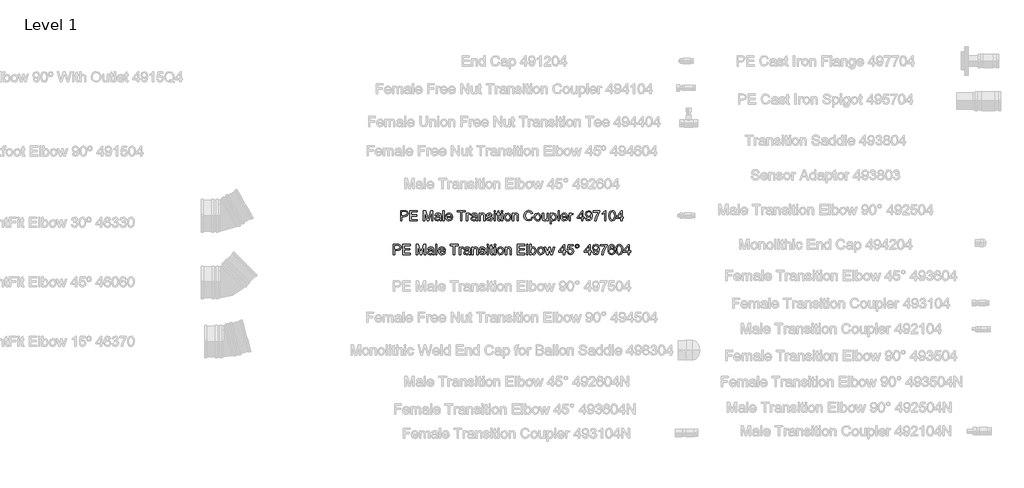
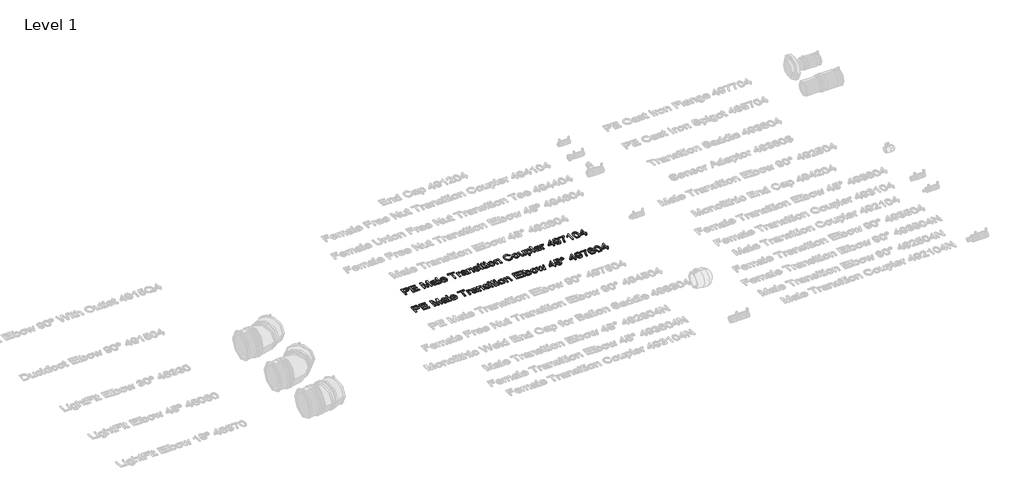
# One storey, part 29 of 38: 2 proxies.
"""IFC4 building model written with IfcOpenShell, lengths in millimetres."""

from ifc_helpers import new_model, si_unit, origin, origin_with_axes, place, context, project, spatial, polyline, outline, extrude, element, save

model = new_model("IFC4")

# Units and contexts
model_context = context("Model", 3, world=origin())
ifc_project = project(units=[si_unit("LENGTHUNIT", "METRE", prefix="MILLI")], contexts=[model_context])

# Site, building, storey
site = spatial("IfcSite", under=ifc_project)
building = spatial("IfcBuilding", under=site)
storey = spatial("IfcBuildingStorey", under=building, Name="Level 1", Elevation=0.0)

# Proxies
placement = place(None, origin())
element("IfcBuildingElementProxy", 1, Name="100 mm Arial", ObjectType="100 mm Arial", at=placement, inside=storey, context=model_context, shape_type="SweptSolid", body=[
    extrude(outline(polyline([(15672.5057062, 4189.446795), (15672.5057062, 4248.523718), (15694.399937, 4248.523718), (15703.2268601, 4247.961218), (15710.4023408, 4245.1991988), (15715.0537831, 4239.4876603), (15716.8133985, 4231.4323719), (15712.0609947, 4218.6679488), (15705.3957302, 4214.7520834), (15694.9047447, 4213.446795), (15679.8903216, 4213.446795), (15679.8903216, 4189.446795), (15672.5057062, 4189.446795)]), holes=[polyline([(15679.8903216, 4220.8314103), (15695.337437, 4220.8314103), (15706.212437, 4223.5429488), (15709.4287831, 4231.1727565), (15707.5321485, 4237.2881411), (15702.5489754, 4240.634295), (15695.1643601, 4241.1391027), (15679.8903216, 4241.1391027), (15679.8903216, 4220.8314103)])]), origin_with_axes(), (0.0, 0.0, 1.0), 5.0),
    extrude(outline(polyline([(15726.9672447, 4189.446795), (15726.9672447, 4248.523718), (15769.4287831, 4248.523718), (15769.4287831, 4241.1391027), (15734.3518601, 4241.1391027), (15734.3518601, 4223.6006411), (15767.5826293, 4223.6006411), (15767.5826293, 4216.2160257), (15734.3518601, 4216.2160257), (15734.3518601, 4196.8314103), (15770.3518601, 4196.8314103), (15770.3518601, 4189.446795), (15726.9672447, 4189.446795)])), origin_with_axes(), (0.0, 0.0, 1.0), 5.0),
    extrude(outline(polyline([(15804.5057062, 4189.446795), (15804.5057062, 4248.523718), (15817.212437, 4248.523718), (15829.2989754, 4206.884295), (15831.7364754, 4198.1871796), (15834.3758985, 4207.6054488), (15846.2605139, 4248.523718), (15858.9672447, 4248.523718), (15858.9672447, 4189.446795), (15851.5826293, 4189.446795), (15851.5826293, 4241.1391027), (15836.7412831, 4189.446795), (15826.7316677, 4189.446795), (15811.8903216, 4241.1391027), (15811.8903216, 4189.446795), (15804.5057062, 4189.446795)])), origin_with_axes(), (0.0, 0.0, 1.0), 5.0),
    extrude(outline(polyline([(15898.6595524, 4194.9852565), (15891.4984947, 4189.9804488), (15883.587437, 4188.523718), (15872.8638793, 4192.0285257), (15869.1210908, 4200.9852565), (15870.5345524, 4206.8266027), (15874.2484947, 4211.0669873), (15879.4191677, 4213.4900642), (15885.8085908, 4214.6006411), (15898.6162831, 4217.1391027), (15898.6595524, 4218.7833334), (15896.6258985, 4224.2352565), (15888.462437, 4226.3698719), (15880.9912831, 4224.9491988), (15877.4287831, 4219.9083334), (15870.0441677, 4220.8314103), (15873.2388793, 4228.0429488), (15879.6715716, 4232.2689103), (15889.4143601, 4233.7544873), (15898.3638793, 4232.4419873), (15903.4191677, 4229.1463142), (15905.6835908, 4224.134295), (15906.0441677, 4217.6727565), (15906.0441677, 4208.4852565), (15906.4191677, 4195.6559296), (15907.8903216, 4189.446795), (15900.5057062, 4189.446795), (15898.6595524, 4194.9852565)]), holes=[polyline([(15898.6595524, 4209.7544873), (15886.7460908, 4207.4900642), (15880.3927254, 4206.2929488), (15877.5153216, 4204.3458334), (15876.5057062, 4201.5044873), (15878.7052254, 4197.509295), (15885.1595524, 4195.9083334), (15892.6307062, 4197.6751603), (15897.4480139, 4201.9516027), (15898.6162831, 4207.6631411), (15898.6595524, 4209.7544873)])]), origin_with_axes(), (0.0, 0.0, 1.0), 5.0),
    extrude(outline(polyline([(15916.1980139, 4189.446795), (15916.1980139, 4248.523718), (15923.5826293, 4248.523718), (15923.5826293, 4189.446795), (15916.1980139, 4189.446795)])), origin_with_axes(), (0.0, 0.0, 1.0), 5.0),
    extrude(outline(polyline([(15965.0345524, 4202.3698719), (15972.274937, 4201.446795), (15965.5033024, 4191.9131411), (15952.8903216, 4188.523718), (15944.2256581, 4189.9858575), (15937.5585908, 4194.3722757), (15933.3073889, 4201.3981171), (15931.8903216, 4210.7785257), (15933.321812, 4220.4744392), (15937.6162831, 4227.7256411), (15944.1932062, 4232.2472757), (15952.4720524, 4233.7544873), (15960.493086, 4232.2508815), (15966.9023408, 4227.7400642), (15971.1048649, 4220.5032853), (15972.5057062, 4210.821795), (15972.462437, 4208.8314103), (15939.274937, 4208.8314103), (15943.5225331, 4199.2400642), (15953.0345524, 4195.9083334), (15960.274937, 4197.4516027), (15965.0345524, 4202.3698719)]), holes=[polyline([(15939.274937, 4216.2160257), (15965.1210908, 4216.2160257), (15962.1643601, 4222.9083334), (15952.4432062, 4226.3698719), (15943.3494562, 4223.6078527), (15939.274937, 4216.2160257)])]), origin_with_axes(), (0.0, 0.0, 1.0), 5.0),
    extrude(outline(polyline([(16018.6595524, 4189.446795), (16018.6595524, 4241.1391027), (15999.274937, 4241.1391027), (15999.274937, 4248.523718), (16045.4287831, 4248.523718), (16045.4287831, 4241.1391027), (16026.0441677, 4241.1391027), (16026.0441677, 4189.446795), (16018.6595524, 4189.446795)])), origin_with_axes(), (0.0, 0.0, 1.0), 5.0),
    extrude(outline(polyline([(16052.8133985, 4189.446795), (16052.8133985, 4232.8314103), (16059.274937, 4232.8314103), (16059.274937, 4226.4131411), (16063.8614754, 4232.3266027), (16068.4768601, 4233.7544873), (16075.8903216, 4231.4756411), (16073.4239754, 4224.8554488), (16068.2316677, 4226.3698719), (16064.056187, 4224.9131411), (16061.3951293, 4220.8746796), (16060.1980139, 4212.2496796), (16060.1980139, 4189.446795), (16052.8133985, 4189.446795)])), origin_with_axes(), (0.0, 0.0, 1.0), 5.0),
    extrude(outline(polyline([(16108.1980139, 4194.9852565), (16101.0369562, 4189.9804488), (16093.1258985, 4188.523718), (16082.4023408, 4192.0285257), (16078.6595524, 4200.9852565), (16080.0730139, 4206.8266027), (16083.7869562, 4211.0669873), (16088.9576293, 4213.4900642), (16095.3470524, 4214.6006411), (16108.1547447, 4217.1391027), (16108.1980139, 4218.7833334), (16106.1643601, 4224.2352565), (16098.0008985, 4226.3698719), (16090.5297447, 4224.9491988), (16086.9672447, 4219.9083334), (16079.5826293, 4220.8314103), (16082.7773408, 4228.0429488), (16089.2100331, 4232.2689103), (16098.9528216, 4233.7544873), (16107.9023408, 4232.4419873), (16112.9576293, 4229.1463142), (16115.2220524, 4224.134295), (16115.5826293, 4217.6727565), (16115.5826293, 4208.4852565), (16115.9576293, 4195.6559296), (16117.4287831, 4189.446795), (16110.0441677, 4189.446795), (16108.1980139, 4194.9852565)]), holes=[polyline([(16108.1980139, 4209.7544873), (16096.2845524, 4207.4900642), (16089.931187, 4206.2929488), (16087.0537831, 4204.3458334), (16086.0441677, 4201.5044873), (16088.243687, 4197.509295), (16094.6980139, 4195.9083334), (16102.1691677, 4197.6751603), (16106.9864754, 4201.9516027), (16108.1547447, 4207.6631411), (16108.1980139, 4209.7544873)])]), origin_with_axes(), (0.0, 0.0, 1.0), 5.0),
    extrude(outline(polyline([(16125.7364754, 4189.446795), (16125.7364754, 4232.8314103), (16133.1210908, 4232.8314103), (16133.1210908, 4226.773718), (16138.7677254, 4232.009295), (16146.4768601, 4233.7544873), (16153.4504177, 4232.3482373), (16158.2100331, 4228.6559296), (16160.4239754, 4223.2256411), (16160.8133985, 4216.086218), (16160.8133985, 4189.446795), (16153.4287831, 4189.446795), (16153.4287831, 4215.0910257), (16152.5778216, 4221.6246796), (16149.5706101, 4225.0790065), (16144.5008985, 4226.3698719), (16136.4888793, 4223.4708334), (16133.1210908, 4212.4660257), (16133.1210908, 4189.446795), (16125.7364754, 4189.446795)])), origin_with_axes(), (0.0, 0.0, 1.0), 5.0),
    extrude(outline(polyline([(16168.1980139, 4202.3698719), (16175.5826293, 4203.2929488), (16179.0008985, 4197.8121796), (16186.8326293, 4195.9083334), (16194.3614754, 4197.6535257), (16196.8133985, 4201.7496796), (16194.3470524, 4205.0669873), (16186.7460908, 4207.1727565), (16175.6258985, 4210.7857373), (16170.7725331, 4215.0044873), (16169.1210908, 4220.961218), (16170.4480139, 4226.4636219), (16174.0682062, 4230.6679488), (16178.7629177, 4232.853045), (16185.1162831, 4233.7544873), (16194.1018601, 4232.304968), (16199.8133985, 4228.3818911), (16202.3518601, 4221.7544873), (16194.9672447, 4220.8314103), (16192.1908024, 4224.9059296), (16185.6932062, 4226.3698719), (16178.6258985, 4224.9708334), (16176.5057062, 4221.711218), (16177.3855139, 4219.5621796), (16180.1403216, 4217.9323719), (16186.5008985, 4216.3602565), (16197.3398408, 4212.884295), (16202.3734947, 4208.946795), (16204.1980139, 4202.5285257), (16202.056187, 4195.461218), (16195.8758985, 4190.3338142), (16186.7316677, 4188.523718), (16173.8518601, 4192.0141027), (16168.1980139, 4202.3698719)])), origin_with_axes(), (0.0, 0.0, 1.0), 5.0),
    extrude(outline(polyline([(16212.5057062, 4189.446795), (16212.5057062, 4232.8314103), (16219.8903216, 4232.8314103), (16219.8903216, 4189.446795), (16212.5057062, 4189.446795)])), origin_with_axes(), (0.0, 0.0, 1.0), 5.0),
    extrude(outline(polyline([(16212.5057062, 4241.1391027), (16212.5057062, 4248.523718), (16219.8903216, 4248.523718), (16219.8903216, 4241.1391027), (16212.5057062, 4241.1391027)])), origin_with_axes(), (0.0, 0.0, 1.0), 5.0),
    extrude(outline(polyline([(16246.6595524, 4195.6054488), (16247.5826293, 4189.2304488), (16242.0585908, 4188.523718), (16235.8710908, 4189.7496796), (16232.7845524, 4192.9660257), (16231.8903216, 4201.3458334), (16231.8903216, 4225.446795), (16226.3518601, 4225.446795), (16226.3518601, 4232.8314103), (16231.8903216, 4232.8314103), (16231.8903216, 4243.3746796), (16239.274937, 4247.7160257), (16239.274937, 4232.8314103), (16246.6595524, 4232.8314103), (16246.6595524, 4225.446795), (16239.274937, 4225.446795), (16239.274937, 4201.5621796), (16239.6643601, 4197.7544873), (16240.9263793, 4196.4059296), (16243.4432062, 4195.9083334), (16246.6595524, 4195.6054488)])), origin_with_axes(), (0.0, 0.0, 1.0), 5.0),
    extrude(outline(polyline([(16254.0441677, 4241.1391027), (16254.0441677, 4248.523718), (16261.4287831, 4248.523718), (16261.4287831, 4241.1391027), (16254.0441677, 4241.1391027)])), origin_with_axes(), (0.0, 0.0, 1.0), 5.0),
    extrude(outline(polyline([(16254.0441677, 4189.446795), (16254.0441677, 4232.8314103), (16261.4287831, 4232.8314103), (16261.4287831, 4189.446795), (16254.0441677, 4189.446795)])), origin_with_axes(), (0.0, 0.0, 1.0), 5.0),
    extrude(outline(polyline([(16270.6595524, 4211.1391027), (16272.2569081, 4221.5994392), (16277.0489754, 4228.9516027), (16290.0585908, 4233.7544873), (16297.8164033, 4232.2923478), (16304.0129177, 4227.9059296), (16308.0748168, 4220.9413863), (16309.4287831, 4211.7448719), (16307.0345524, 4198.6054488), (16300.0609947, 4191.1703527), (16290.0585908, 4188.523718), (16282.2070283, 4189.9804488), (16276.0177254, 4194.3506411), (16271.9990956, 4201.461218), (16270.6595524, 4211.1391027)]), holes=[polyline([(16278.0441677, 4211.1535257), (16281.462437, 4199.7088142), (16290.0585908, 4195.9083334), (16298.6258985, 4199.7304488), (16302.0441677, 4211.384295), (16298.6042639, 4222.5693911), (16290.0585908, 4226.3698719), (16281.462437, 4222.5838142), (16278.0441677, 4211.1535257)])]), origin_with_axes(), (0.0, 0.0, 1.0), 5.0),
    extrude(outline(polyline([(16317.7364754, 4189.446795), (16317.7364754, 4232.8314103), (16325.1210908, 4232.8314103), (16325.1210908, 4226.773718), (16330.7677254, 4232.009295), (16338.4768601, 4233.7544873), (16345.4504177, 4232.3482373), (16350.2100331, 4228.6559296), (16352.4239754, 4223.2256411), (16352.8133985, 4216.086218), (16352.8133985, 4189.446795), (16345.4287831, 4189.446795), (16345.4287831, 4215.0910257), (16344.5778216, 4221.6246796), (16341.5706101, 4225.0790065), (16336.5008985, 4226.3698719), (16328.4888793, 4223.4708334), (16325.1210908, 4212.4660257), (16325.1210908, 4189.446795), (16317.7364754, 4189.446795)])), origin_with_axes(), (0.0, 0.0, 1.0), 5.0),
    extrude(outline(polyline([(16428.5057062, 4210.446795), (16435.8903216, 4208.5429488), (16427.1355139, 4193.6511219), (16411.6739754, 4188.523718), (16396.306187, 4192.4035257), (16387.2917639, 4203.6391027), (16384.1980139, 4219.4323719), (16387.6956101, 4235.4852565), (16397.6403216, 4245.8915065), (16411.8326293, 4249.446795), (16426.6234947, 4244.8458334), (16434.9672447, 4231.8939103), (16427.5826293, 4230.134295), (16421.524937, 4239.2136219), (16411.5441677, 4242.0621796), (16399.9912831, 4238.9035257), (16393.4648408, 4230.4227565), (16391.5826293, 4219.446795), (16393.8109947, 4206.7256411), (16400.7484947, 4198.5982373), (16410.9383985, 4195.9083334), (16422.2388793, 4199.571795), (16428.5057062, 4210.446795)])), origin_with_axes(), (0.0, 0.0, 1.0), 5.0),
    extrude(outline(polyline([(16443.274937, 4211.1391027), (16444.8722927, 4221.5994392), (16449.6643601, 4228.9516027), (16462.6739754, 4233.7544873), (16470.4317879, 4232.2923478), (16476.6283024, 4227.9059296), (16480.6902014, 4220.9413863), (16482.0441677, 4211.7448719), (16479.649937, 4198.6054488), (16472.6763793, 4191.1703527), (16462.6739754, 4188.523718), (16454.8224129, 4189.9804488), (16448.6331101, 4194.3506411), (16444.6144802, 4201.461218), (16443.274937, 4211.1391027)]), holes=[polyline([(16450.6595524, 4211.1535257), (16454.0778216, 4199.7088142), (16462.6739754, 4195.9083334), (16471.2412831, 4199.7304488), (16474.6595524, 4211.384295), (16471.2196485, 4222.5693911), (16462.6739754, 4226.3698719), (16454.0778216, 4222.5838142), (16450.6595524, 4211.1535257)])]), origin_with_axes(), (0.0, 0.0, 1.0), 5.0),
    extrude(outline(polyline([(16518.0441677, 4189.446795), (16518.0441677, 4196.9035257), (16512.2605139, 4190.61867), (16504.7172447, 4188.523718), (16497.7725331, 4189.9948719), (16492.9840716, 4193.6871796), (16490.7845524, 4199.1246796), (16490.3518601, 4205.9900642), (16490.3518601, 4232.8314103), (16497.7364754, 4232.8314103), (16497.7364754, 4209.4660257), (16498.1835908, 4201.9371796), (16501.1042639, 4197.5165065), (16506.6066677, 4195.9083334), (16512.7725331, 4197.5525642), (16516.8470524, 4202.0309296), (16518.0441677, 4210.259295), (16518.0441677, 4232.8314103), (16525.4287831, 4232.8314103), (16525.4287831, 4189.446795), (16518.0441677, 4189.446795)])), origin_with_axes(), (0.0, 0.0, 1.0), 5.0),
    extrude(outline(polyline([(16535.5826293, 4172.8314103), (16535.5826293, 4232.8314103), (16542.9672447, 4232.8314103), (16542.9672447, 4225.5910257), (16548.0730139, 4231.7136219), (16554.9672447, 4233.7544873), (16564.3278216, 4230.898718), (16570.4432062, 4222.8506411), (16572.5057062, 4211.4708334), (16570.1763793, 4199.5068911), (16563.4119562, 4191.3578527), (16554.0730139, 4188.523718), (16547.6475331, 4190.4203527), (16542.9672447, 4195.2160257), (16542.9672447, 4172.8314103), (16535.5826293, 4172.8314103)]), holes=[polyline([(16542.9672447, 4210.7929488), (16546.1619562, 4199.5429488), (16553.9143601, 4195.9083334), (16561.8254177, 4199.6727565), (16565.1210908, 4211.3410257), (16561.9047447, 4222.6198719), (16554.2172447, 4226.3698719), (16546.3783024, 4222.3818911), (16542.9672447, 4210.7929488)])]), origin_with_axes(), (0.0, 0.0, 1.0), 5.0),
    extrude(outline(polyline([(16580.8133985, 4189.446795), (16580.8133985, 4248.523718), (16588.1980139, 4248.523718), (16588.1980139, 4189.446795), (16580.8133985, 4189.446795)])), origin_with_axes(), (0.0, 0.0, 1.0), 5.0),
    extrude(outline(polyline([(16629.649937, 4202.3698719), (16636.8903216, 4201.446795), (16630.118687, 4191.9131411), (16617.5057062, 4188.523718), (16608.8410427, 4189.9858575), (16602.1739754, 4194.3722757), (16597.9227735, 4201.3981171), (16596.5057062, 4210.7785257), (16597.9371966, 4220.4744392), (16602.2316677, 4227.7256411), (16608.8085908, 4232.2472757), (16617.087437, 4233.7544873), (16625.1084706, 4232.2508815), (16631.5177254, 4227.7400642), (16635.7202495, 4220.5032853), (16637.1210908, 4210.821795), (16637.0778216, 4208.8314103), (16603.8903216, 4208.8314103), (16608.1379177, 4199.2400642), (16617.649937, 4195.9083334), (16624.8903216, 4197.4516027), (16629.649937, 4202.3698719)]), holes=[polyline([(16603.8903216, 4216.2160257), (16629.7364754, 4216.2160257), (16626.7797447, 4222.9083334), (16617.0585908, 4226.3698719), (16607.9648408, 4223.6078527), (16603.8903216, 4216.2160257)])]), origin_with_axes(), (0.0, 0.0, 1.0), 5.0),
    extrude(outline(polyline([(16644.5057062, 4189.446795), (16644.5057062, 4232.8314103), (16650.9672447, 4232.8314103), (16650.9672447, 4226.4131411), (16655.5537831, 4232.3266027), (16660.1691677, 4233.7544873), (16667.5826293, 4231.4756411), (16665.1162831, 4224.8554488), (16659.9239754, 4226.3698719), (16655.7484947, 4224.9131411), (16653.087437, 4220.8746796), (16651.8903216, 4212.2496796), (16651.8903216, 4189.446795), (16644.5057062, 4189.446795)])), origin_with_axes(), (0.0, 0.0, 1.0), 5.0),
    extrude(outline(polyline([(16717.4287831, 4189.446795), (16717.4287831, 4203.2929488), (16690.6595524, 4203.2929488), (16690.6595524, 4210.6775642), (16719.274937, 4247.6006411), (16724.8133985, 4247.6006411), (16724.8133985, 4210.6775642), (16732.1980139, 4210.6775642), (16732.1980139, 4203.2929488), (16724.8133985, 4203.2929488), (16724.8133985, 4189.446795), (16717.4287831, 4189.446795)]), holes=[polyline([(16717.4287831, 4210.6775642), (16717.4287831, 4233.4948719), (16699.7460908, 4210.6775642), (16717.4287831, 4210.6775642)])]), origin_with_axes(), (0.0, 0.0, 1.0), 5.0),
    extrude(outline(polyline([(16739.5826293, 4204.2160257), (16746.9672447, 4205.1391027), (16750.2845524, 4198.0934296), (16756.5730139, 4195.9083334), (16762.5513793, 4197.3145834), (16766.6042639, 4201.071795), (16769.0201293, 4207.4900642), (16770.087437, 4216.0573719), (16764.1379177, 4211.9035257), (16756.0393601, 4209.7544873), (16743.7004177, 4215.0044873), (16738.6595524, 4228.836218), (16743.9456101, 4243.1150642), (16757.1932062, 4248.523718), (16767.7148408, 4245.4371796), (16774.9552254, 4236.6391027), (16777.4287831, 4220.1102565), (16774.962437, 4202.1751603), (16767.6283024, 4192.0141027), (16756.2268601, 4188.523718), (16744.8758985, 4192.6415065), (16739.5826293, 4204.2160257)]), holes=[polyline([(16770.0441677, 4229.009295), (16766.8566677, 4237.8650642), (16758.3903216, 4241.1391027), (16749.5057062, 4237.6126603), (16746.0441677, 4228.4756411), (16749.3182062, 4220.290545), (16758.1883985, 4217.1391027), (16766.7052254, 4220.290545), (16770.0441677, 4229.009295)])]), origin_with_axes(), (0.0, 0.0, 1.0), 5.0),
    extrude(outline(polyline([(16783.8903216, 4240.2160257), (16783.8903216, 4247.6006411), (16822.6595524, 4247.6006411), (16822.6595524, 4241.6294873), (16811.6619562, 4225.742468), (16803.2460908, 4205.4996796), (16800.5057062, 4189.446795), (16793.1210908, 4189.446795), (16796.056187, 4206.1054488), (16804.1114754, 4224.9347757), (16815.274937, 4240.2160257), (16783.8903216, 4240.2160257)])), origin_with_axes(), (0.0, 0.0, 1.0), 5.0),
    extrude(outline(polyline([(16856.8133985, 4189.446795), (16849.4287831, 4189.446795), (16849.4287831, 4235.4852565), (16842.4335908, 4230.5020834), (16834.6595524, 4226.773718), (16834.6595524, 4233.7544873), (16845.4840716, 4240.6631411), (16852.0537831, 4248.523718), (16856.8133985, 4248.523718), (16856.8133985, 4189.446795)])), origin_with_axes(), (0.0, 0.0, 1.0), 5.0),
    extrude(outline(polyline([(16874.3518601, 4218.509295), (16876.5225331, 4235.5068911), (16882.9696485, 4245.3073719), (16893.7364754, 4248.523718), (16902.3614754, 4246.6198719), (16908.3182062, 4241.1318911), (16911.7797447, 4232.3915065), (16913.1210908, 4218.509295), (16910.9720524, 4201.5838142), (16904.5465716, 4191.7616988), (16893.7364754, 4188.523718), (16886.0633985, 4189.929968), (16880.2364754, 4194.148718), (16875.8230139, 4204.1403046), (16874.3518601, 4218.509295)]), holes=[polyline([(16881.7364754, 4218.523718), (16885.1980139, 4200.1847757), (16893.7364754, 4195.9083334), (16902.274937, 4200.1991988), (16905.7364754, 4218.523718), (16902.3903216, 4236.6535257), (16893.649937, 4241.1391027), (16885.3133985, 4237.1871796), (16881.7364754, 4218.523718)])]), origin_with_axes(), (0.0, 0.0, 1.0), 5.0),
    extrude(outline(polyline([(16943.5826293, 4189.446795), (16943.5826293, 4203.2929488), (16916.8133985, 4203.2929488), (16916.8133985, 4210.6775642), (16945.4287831, 4247.6006411), (16950.9672447, 4247.6006411), (16950.9672447, 4210.6775642), (16958.3518601, 4210.6775642), (16958.3518601, 4203.2929488), (16950.9672447, 4203.2929488), (16950.9672447, 4189.446795), (16943.5826293, 4189.446795)]), holes=[polyline([(16943.5826293, 4210.6775642), (16943.5826293, 4233.4948719), (16925.899937, 4210.6775642), (16943.5826293, 4210.6775642)])]), origin_with_axes(), (0.0, 0.0, 1.0), 5.0),
])
element("IfcBuildingElementProxy", 2, Name="100 mm Arial", ObjectType="100 mm Arial", at=placement, inside=storey, context=model_context, shape_type="SweptSolid", body=[
    extrude(outline(polyline([(15631.4287831, 3994.446795), (15631.4287831, 4053.523718), (15653.3230139, 4053.523718), (15662.149937, 4052.961218), (15669.3254177, 4050.1991988), (15673.9768601, 4044.4876603), (15675.7364754, 4036.4323719), (15670.9840716, 4023.6679488), (15664.3188072, 4019.7520834), (15653.8278216, 4018.446795), (15638.8133985, 4018.446795), (15638.8133985, 3994.446795), (15631.4287831, 3994.446795)]), holes=[polyline([(15638.8133985, 4025.8314103), (15654.2605139, 4025.8314103), (15665.1355139, 4028.5429488), (15668.3518601, 4036.1727565), (15666.4552254, 4042.2881411), (15661.4720524, 4045.634295), (15654.087437, 4046.1391027), (15638.8133985, 4046.1391027), (15638.8133985, 4025.8314103)])]), origin_with_axes(), (0.0, 0.0, 1.0), 5.0),
    extrude(outline(polyline([(15685.8903216, 3994.446795), (15685.8903216, 4053.523718), (15728.3518601, 4053.523718), (15728.3518601, 4046.1391027), (15693.274937, 4046.1391027), (15693.274937, 4028.6006411), (15726.5057062, 4028.6006411), (15726.5057062, 4021.2160257), (15693.274937, 4021.2160257), (15693.274937, 4001.8314103), (15729.274937, 4001.8314103), (15729.274937, 3994.446795), (15685.8903216, 3994.446795)])), origin_with_axes(), (0.0, 0.0, 1.0), 5.0),
    extrude(outline(polyline([(15763.4287831, 3994.446795), (15763.4287831, 4053.523718), (15776.1355139, 4053.523718), (15788.2220524, 4011.884295), (15790.6595524, 4003.1871796), (15793.2989754, 4012.6054488), (15805.1835908, 4053.523718), (15817.8903216, 4053.523718), (15817.8903216, 3994.446795), (15810.5057062, 3994.446795), (15810.5057062, 4046.1391027), (15795.6643601, 3994.446795), (15785.6547447, 3994.446795), (15770.8133985, 4046.1391027), (15770.8133985, 3994.446795), (15763.4287831, 3994.446795)])), origin_with_axes(), (0.0, 0.0, 1.0), 5.0),
    extrude(outline(polyline([(15857.5826293, 3999.9852565), (15850.4215716, 3994.9804488), (15842.5105139, 3993.523718), (15831.7869562, 3997.0285257), (15828.0441677, 4005.9852565), (15829.4576293, 4011.8266027), (15833.1715716, 4016.0669873), (15838.3422447, 4018.4900642), (15844.7316677, 4019.6006411), (15857.5393601, 4022.1391027), (15857.5826293, 4023.7833334), (15855.5489754, 4029.2352565), (15847.3855139, 4031.3698719), (15839.9143601, 4029.9491988), (15836.3518601, 4024.9083334), (15828.9672447, 4025.8314103), (15832.1619562, 4033.0429488), (15838.5946485, 4037.2689103), (15848.337437, 4038.7544873), (15857.2869562, 4037.4419873), (15862.3422447, 4034.1463142), (15864.6066677, 4029.134295), (15864.9672447, 4022.6727565), (15864.9672447, 4013.4852565), (15865.3422447, 4000.6559296), (15866.8133985, 3994.446795), (15859.4287831, 3994.446795), (15857.5826293, 3999.9852565)]), holes=[polyline([(15857.5826293, 4014.7544873), (15845.6691677, 4012.4900642), (15839.3158024, 4011.2929488), (15836.4383985, 4009.3458334), (15835.4287831, 4006.5044873), (15837.6283024, 4002.509295), (15844.0826293, 4000.9083334), (15851.5537831, 4002.6751603), (15856.3710908, 4006.9516027), (15857.5393601, 4012.6631411), (15857.5826293, 4014.7544873)])]), origin_with_axes(), (0.0, 0.0, 1.0), 5.0),
    extrude(outline(polyline([(15875.1210908, 3994.446795), (15875.1210908, 4053.523718), (15882.5057062, 4053.523718), (15882.5057062, 3994.446795), (15875.1210908, 3994.446795)])), origin_with_axes(), (0.0, 0.0, 1.0), 5.0),
    extrude(outline(polyline([(15923.9576293, 4007.3698719), (15931.1980139, 4006.446795), (15924.4263793, 3996.9131411), (15911.8133985, 3993.523718), (15903.1487351, 3994.9858575), (15896.4816677, 3999.3722757), (15892.2304658, 4006.3981171), (15890.8133985, 4015.7785257), (15892.2448889, 4025.4744392), (15896.5393601, 4032.7256411), (15903.1162831, 4037.2472757), (15911.3951293, 4038.7544873), (15919.4161629, 4037.2508815), (15925.8254177, 4032.7400642), (15930.0279418, 4025.5032853), (15931.4287831, 4015.821795), (15931.3855139, 4013.8314103), (15898.1980139, 4013.8314103), (15902.4456101, 4004.2400642), (15911.9576293, 4000.9083334), (15919.1980139, 4002.4516027), (15923.9576293, 4007.3698719)]), holes=[polyline([(15898.1980139, 4021.2160257), (15924.0441677, 4021.2160257), (15921.087437, 4027.9083334), (15911.3662831, 4031.3698719), (15902.2725331, 4028.6078527), (15898.1980139, 4021.2160257)])]), origin_with_axes(), (0.0, 0.0, 1.0), 5.0),
    extrude(outline(polyline([(15977.5826293, 3994.446795), (15977.5826293, 4046.1391027), (15958.1980139, 4046.1391027), (15958.1980139, 4053.523718), (16004.3518601, 4053.523718), (16004.3518601, 4046.1391027), (15984.9672447, 4046.1391027), (15984.9672447, 3994.446795), (15977.5826293, 3994.446795)])), origin_with_axes(), (0.0, 0.0, 1.0), 5.0),
    extrude(outline(polyline([(16011.7364754, 3994.446795), (16011.7364754, 4037.8314103), (16018.1980139, 4037.8314103), (16018.1980139, 4031.4131411), (16022.7845524, 4037.3266027), (16027.399937, 4038.7544873), (16034.8133985, 4036.4756411), (16032.3470524, 4029.8554488), (16027.1547447, 4031.3698719), (16022.9792639, 4029.9131411), (16020.3182062, 4025.8746796), (16019.1210908, 4017.2496796), (16019.1210908, 3994.446795), (16011.7364754, 3994.446795)])), origin_with_axes(), (0.0, 0.0, 1.0), 5.0),
    extrude(outline(polyline([(16067.1210908, 3999.9852565), (16059.9600331, 3994.9804488), (16052.0489754, 3993.523718), (16041.3254177, 3997.0285257), (16037.5826293, 4005.9852565), (16038.9960908, 4011.8266027), (16042.7100331, 4016.0669873), (16047.8807062, 4018.4900642), (16054.2701293, 4019.6006411), (16067.0778216, 4022.1391027), (16067.1210908, 4023.7833334), (16065.087437, 4029.2352565), (16056.9239754, 4031.3698719), (16049.4528216, 4029.9491988), (16045.8903216, 4024.9083334), (16038.5057062, 4025.8314103), (16041.7004177, 4033.0429488), (16048.1331101, 4037.2689103), (16057.8758985, 4038.7544873), (16066.8254177, 4037.4419873), (16071.8807062, 4034.1463142), (16074.1451293, 4029.134295), (16074.5057062, 4022.6727565), (16074.5057062, 4013.4852565), (16074.8807062, 4000.6559296), (16076.3518601, 3994.446795), (16068.9672447, 3994.446795), (16067.1210908, 3999.9852565)]), holes=[polyline([(16067.1210908, 4014.7544873), (16055.2076293, 4012.4900642), (16048.8542639, 4011.2929488), (16045.9768601, 4009.3458334), (16044.9672447, 4006.5044873), (16047.1667639, 4002.509295), (16053.6210908, 4000.9083334), (16061.0922447, 4002.6751603), (16065.9095524, 4006.9516027), (16067.0778216, 4012.6631411), (16067.1210908, 4014.7544873)])]), origin_with_axes(), (0.0, 0.0, 1.0), 5.0),
    extrude(outline(polyline([(16084.6595524, 3994.446795), (16084.6595524, 4037.8314103), (16092.0441677, 4037.8314103), (16092.0441677, 4031.773718), (16097.6908024, 4037.009295), (16105.399937, 4038.7544873), (16112.3734947, 4037.3482373), (16117.1331101, 4033.6559296), (16119.3470524, 4028.2256411), (16119.7364754, 4021.086218), (16119.7364754, 3994.446795), (16112.3518601, 3994.446795), (16112.3518601, 4020.0910257), (16111.5008985, 4026.6246796), (16108.493687, 4030.0790065), (16103.4239754, 4031.3698719), (16095.4119562, 4028.4708334), (16092.0441677, 4017.4660257), (16092.0441677, 3994.446795), (16084.6595524, 3994.446795)])), origin_with_axes(), (0.0, 0.0, 1.0), 5.0),
    extrude(outline(polyline([(16127.1210908, 4007.3698719), (16134.5057062, 4008.2929488), (16137.9239754, 4002.8121796), (16145.7557062, 4000.9083334), (16153.2845524, 4002.6535257), (16155.7364754, 4006.7496796), (16153.2701293, 4010.0669873), (16145.6691677, 4012.1727565), (16134.5489754, 4015.7857373), (16129.6956101, 4020.0044873), (16128.0441677, 4025.961218), (16129.3710908, 4031.4636219), (16132.9912831, 4035.6679488), (16137.6859947, 4037.853045), (16144.0393601, 4038.7544873), (16153.024937, 4037.304968), (16158.7364754, 4033.3818911), (16161.274937, 4026.7544873), (16153.8903216, 4025.8314103), (16151.1138793, 4029.9059296), (16144.6162831, 4031.3698719), (16137.5489754, 4029.9708334), (16135.4287831, 4026.711218), (16136.3085908, 4024.5621796), (16139.0633985, 4022.9323719), (16145.4239754, 4021.3602565), (16156.2629177, 4017.884295), (16161.2965716, 4013.946795), (16163.1210908, 4007.5285257), (16160.9792639, 4000.461218), (16154.7989754, 3995.3338142), (16145.6547447, 3993.523718), (16132.774937, 3997.0141027), (16127.1210908, 4007.3698719)])), origin_with_axes(), (0.0, 0.0, 1.0), 5.0),
    extrude(outline(polyline([(16171.4287831, 3994.446795), (16171.4287831, 4037.8314103), (16178.8133985, 4037.8314103), (16178.8133985, 3994.446795), (16171.4287831, 3994.446795)])), origin_with_axes(), (0.0, 0.0, 1.0), 5.0),
    extrude(outline(polyline([(16171.4287831, 4046.1391027), (16171.4287831, 4053.523718), (16178.8133985, 4053.523718), (16178.8133985, 4046.1391027), (16171.4287831, 4046.1391027)])), origin_with_axes(), (0.0, 0.0, 1.0), 5.0),
    extrude(outline(polyline([(16205.5826293, 4000.6054488), (16206.5057062, 3994.2304488), (16200.9816677, 3993.523718), (16194.7941677, 3994.7496796), (16191.7076293, 3997.9660257), (16190.8133985, 4006.3458334), (16190.8133985, 4030.446795), (16185.274937, 4030.446795), (16185.274937, 4037.8314103), (16190.8133985, 4037.8314103), (16190.8133985, 4048.3746796), (16198.1980139, 4052.7160257), (16198.1980139, 4037.8314103), (16205.5826293, 4037.8314103), (16205.5826293, 4030.446795), (16198.1980139, 4030.446795), (16198.1980139, 4006.5621796), (16198.587437, 4002.7544873), (16199.8494562, 4001.4059296), (16202.3662831, 4000.9083334), (16205.5826293, 4000.6054488)])), origin_with_axes(), (0.0, 0.0, 1.0), 5.0),
    extrude(outline(polyline([(16212.9672447, 4046.1391027), (16212.9672447, 4053.523718), (16220.3518601, 4053.523718), (16220.3518601, 4046.1391027), (16212.9672447, 4046.1391027)])), origin_with_axes(), (0.0, 0.0, 1.0), 5.0),
    extrude(outline(polyline([(16212.9672447, 3994.446795), (16212.9672447, 4037.8314103), (16220.3518601, 4037.8314103), (16220.3518601, 3994.446795), (16212.9672447, 3994.446795)])), origin_with_axes(), (0.0, 0.0, 1.0), 5.0),
    extrude(outline(polyline([(16229.5826293, 4016.1391027), (16231.1799851, 4026.5994392), (16235.9720524, 4033.9516027), (16248.9816677, 4038.7544873), (16256.7394802, 4037.2923478), (16262.9359947, 4032.9059296), (16266.9978937, 4025.9413863), (16268.3518601, 4016.7448719), (16265.9576293, 4003.6054488), (16258.9840716, 3996.1703527), (16248.9816677, 3993.523718), (16241.1301052, 3994.9804488), (16234.9408024, 3999.3506411), (16230.9221726, 4006.461218), (16229.5826293, 4016.1391027)]), holes=[polyline([(16236.9672447, 4016.1535257), (16240.3855139, 4004.7088142), (16248.9816677, 4000.9083334), (16257.5489754, 4004.7304488), (16260.9672447, 4016.384295), (16257.5273408, 4027.5693911), (16248.9816677, 4031.3698719), (16240.3855139, 4027.5838142), (16236.9672447, 4016.1535257)])]), origin_with_axes(), (0.0, 0.0, 1.0), 5.0),
    extrude(outline(polyline([(16276.6595524, 3994.446795), (16276.6595524, 4037.8314103), (16284.0441677, 4037.8314103), (16284.0441677, 4031.773718), (16289.6908024, 4037.009295), (16297.399937, 4038.7544873), (16304.3734947, 4037.3482373), (16309.1331101, 4033.6559296), (16311.3470524, 4028.2256411), (16311.7364754, 4021.086218), (16311.7364754, 3994.446795), (16304.3518601, 3994.446795), (16304.3518601, 4020.0910257), (16303.5008985, 4026.6246796), (16300.493687, 4030.0790065), (16295.4239754, 4031.3698719), (16287.4119562, 4028.4708334), (16284.0441677, 4017.4660257), (16284.0441677, 3994.446795), (16276.6595524, 3994.446795)])), origin_with_axes(), (0.0, 0.0, 1.0), 5.0),
    extrude(outline(polyline([(16345.8903216, 3994.446795), (16345.8903216, 4053.523718), (16388.3518601, 4053.523718), (16388.3518601, 4046.1391027), (16353.274937, 4046.1391027), (16353.274937, 4028.6006411), (16386.5057062, 4028.6006411), (16386.5057062, 4021.2160257), (16353.274937, 4021.2160257), (16353.274937, 4001.8314103), (16389.274937, 4001.8314103), (16389.274937, 3994.446795), (16345.8903216, 3994.446795)])), origin_with_axes(), (0.0, 0.0, 1.0), 5.0),
    extrude(outline(polyline([(16399.4287831, 3994.446795), (16399.4287831, 4053.523718), (16406.8133985, 4053.523718), (16406.8133985, 3994.446795), (16399.4287831, 3994.446795)])), origin_with_axes(), (0.0, 0.0, 1.0), 5.0),
    extrude(outline(polyline([(16425.274937, 3994.446795), (16417.8903216, 3994.446795), (16417.8903216, 4053.523718), (16425.274937, 4053.523718), (16425.274937, 4031.6150642), (16430.4456101, 4036.9696315), (16436.8710908, 4038.7544873), (16444.2701293, 4037.1463142), (16450.0105139, 4032.6246796), (16453.5369562, 4025.5934296), (16454.8133985, 4016.7881411), (16453.4918841, 4006.929968), (16449.5273408, 3999.5958334), (16443.7094322, 3995.0417469), (16436.8278216, 3993.523718), (16430.2617158, 3995.4816507), (16425.274937, 4001.3554488), (16425.274937, 3994.446795)]), holes=[polyline([(16425.274937, 4016.4419873), (16427.2941677, 4006.1150642), (16436.1932062, 4000.9083334), (16444.0970524, 4004.7448719), (16447.4287831, 4016.1823719), (16444.2340716, 4027.6631411), (16436.5105139, 4031.3698719), (16428.6066677, 4027.5333334), (16425.274937, 4016.4419873)])]), origin_with_axes(), (0.0, 0.0, 1.0), 5.0),
    extrude(outline(polyline([(16461.274937, 4016.1391027), (16462.8722927, 4026.5994392), (16467.6643601, 4033.9516027), (16480.6739754, 4038.7544873), (16488.4317879, 4037.2923478), (16494.6283024, 4032.9059296), (16498.6902014, 4025.9413863), (16500.0441677, 4016.7448719), (16497.649937, 4003.6054488), (16490.6763793, 3996.1703527), (16480.6739754, 3993.523718), (16472.8224129, 3994.9804488), (16466.6331101, 3999.3506411), (16462.6144802, 4006.461218), (16461.274937, 4016.1391027)]), holes=[polyline([(16468.6595524, 4016.1535257), (16472.0778216, 4004.7088142), (16480.6739754, 4000.9083334), (16489.2412831, 4004.7304488), (16492.6595524, 4016.384295), (16489.2196485, 4027.5693911), (16480.6739754, 4031.3698719), (16472.0778216, 4027.5838142), (16468.6595524, 4016.1535257)])]), origin_with_axes(), (0.0, 0.0, 1.0), 5.0),
    extrude(outline(polyline([(16515.5489754, 3994.446795), (16502.3518601, 4037.8314103), (16510.024937, 4037.8314103), (16517.5105139, 4012.5189103), (16519.7460908, 4003.4756411), (16521.5778216, 4012.1871796), (16527.5345524, 4037.8314103), (16536.3326293, 4037.8314103), (16542.2605139, 4012.259295), (16543.8903216, 4004.3698719), (16546.2268601, 4012.6919873), (16553.7268601, 4037.8314103), (16561.4287831, 4037.8314103), (16548.1307062, 3994.446795), (16539.2028216, 3994.446795), (16533.5345524, 4019.8891027), (16531.8903216, 4027.821795), (16524.5778216, 3994.446795), (16515.5489754, 3994.446795)])), origin_with_axes(), (0.0, 0.0, 1.0), 5.0),
    extrude(outline(polyline([(16611.7364754, 3994.446795), (16611.7364754, 4008.2929488), (16584.9672447, 4008.2929488), (16584.9672447, 4015.6775642), (16613.5826293, 4052.6006411), (16619.1210908, 4052.6006411), (16619.1210908, 4015.6775642), (16626.5057062, 4015.6775642), (16626.5057062, 4008.2929488), (16619.1210908, 4008.2929488), (16619.1210908, 3994.446795), (16611.7364754, 3994.446795)]), holes=[polyline([(16611.7364754, 4015.6775642), (16611.7364754, 4038.4948719), (16594.0537831, 4015.6775642), (16611.7364754, 4015.6775642)])]), origin_with_axes(), (0.0, 0.0, 1.0), 5.0),
    extrude(outline(polyline([(16632.9672447, 4010.1391027), (16640.3518601, 4011.0621796), (16644.0730139, 4003.4540065), (16651.7893601, 4000.9083334), (16661.0489754, 4004.4491988), (16664.3518601, 4013.8458334), (16661.2581101, 4022.6150642), (16651.9047447, 4025.8314103), (16645.4215716, 4024.5477565), (16641.274937, 4021.2160257), (16633.8903216, 4022.1391027), (16640.3518601, 4052.6006411), (16668.9672447, 4052.6006411), (16668.9672447, 4045.2160257), (16646.3230139, 4045.2160257), (16643.1643601, 4028.946795), (16653.9672447, 4033.2160257), (16666.5946485, 4027.9227565), (16671.7364754, 4014.3073719), (16667.1066677, 4000.6054488), (16660.4576293, 3995.2941507), (16651.7605139, 3993.523718), (16638.7292639, 3998.0741988), (16632.9672447, 4010.1391027)])), origin_with_axes(), (0.0, 0.0, 1.0), 5.0),
    extrude(outline(polyline([(16680.0441677, 4043.384295), (16683.2965716, 4051.2160257), (16691.1066677, 4054.446795), (16698.9672447, 4051.2160257), (16702.1980139, 4043.384295), (16698.9456101, 4035.5453527), (16691.1066677, 4032.2929488), (16683.2965716, 4035.523718), (16680.0441677, 4043.384295)]), holes=[polyline([(16684.6595524, 4043.3698719), (16686.556187, 4038.7977565), (16691.1355139, 4036.9083334), (16695.6859947, 4038.7977565), (16697.5826293, 4043.3698719), (16695.6859947, 4047.9419873), (16691.1355139, 4049.8314103), (16686.556187, 4047.9419873), (16684.6595524, 4043.3698719)])]), origin_with_axes(), (0.0, 0.0, 1.0), 5.0),
    extrude(outline(polyline([(16758.5057062, 3994.446795), (16758.5057062, 4008.2929488), (16731.7364754, 4008.2929488), (16731.7364754, 4015.6775642), (16760.3518601, 4052.6006411), (16765.8903216, 4052.6006411), (16765.8903216, 4015.6775642), (16773.274937, 4015.6775642), (16773.274937, 4008.2929488), (16765.8903216, 4008.2929488), (16765.8903216, 3994.446795), (16758.5057062, 3994.446795)]), holes=[polyline([(16758.5057062, 4015.6775642), (16758.5057062, 4038.4948719), (16740.8230139, 4015.6775642), (16758.5057062, 4015.6775642)])]), origin_with_axes(), (0.0, 0.0, 1.0), 5.0),
    extrude(outline(polyline([(16780.6595524, 4009.2160257), (16788.0441677, 4010.1391027), (16791.3614754, 4003.0934296), (16797.649937, 4000.9083334), (16803.6283024, 4002.3145834), (16807.681187, 4006.071795), (16810.0970524, 4012.4900642), (16811.1643601, 4021.0573719), (16805.2148408, 4016.9035257), (16797.1162831, 4014.7544873), (16784.7773408, 4020.0044873), (16779.7364754, 4033.836218), (16785.0225331, 4048.1150642), (16798.2701293, 4053.523718), (16808.7917639, 4050.4371796), (16816.0321485, 4041.6391027), (16818.5057062, 4025.1102565), (16816.0393601, 4007.1751603), (16808.7052254, 3997.0141027), (16797.3037831, 3993.523718), (16785.9528216, 3997.6415065), (16780.6595524, 4009.2160257)]), holes=[polyline([(16811.1210908, 4034.009295), (16807.9335908, 4042.8650642), (16799.4672447, 4046.1391027), (16790.5826293, 4042.6126603), (16787.1210908, 4033.4756411), (16790.3951293, 4025.290545), (16799.2653216, 4022.1391027), (16807.7821485, 4025.290545), (16811.1210908, 4034.009295)])]), origin_with_axes(), (0.0, 0.0, 1.0), 5.0),
    extrude(outline(polyline([(16824.9672447, 4045.2160257), (16824.9672447, 4052.6006411), (16863.7364754, 4052.6006411), (16863.7364754, 4046.6294873), (16852.7388793, 4030.742468), (16844.3230139, 4010.4996796), (16841.5826293, 3994.446795), (16834.1980139, 3994.446795), (16837.1331101, 4011.1054488), (16845.1883985, 4029.9347757), (16856.3518601, 4045.2160257), (16824.9672447, 4045.2160257)])), origin_with_axes(), (0.0, 0.0, 1.0), 5.0),
    extrude(outline(polyline([(16908.0441677, 4037.8314103), (16900.6595524, 4036.9083334), (16897.8614754, 4043.0669873), (16890.462437, 4046.1391027), (16883.7989754, 4044.3506411), (16878.7581101, 4037.6366988), (16876.6595524, 4024.4756411), (16883.1715716, 4030.367468), (16891.2412831, 4032.2929488), (16903.7893601, 4027.0285257), (16908.9672447, 4013.4275642), (16906.5297447, 4003.2376603), (16899.8230139, 3996.0261219), (16890.1451293, 3993.523718), (16881.7671245, 3995.1823719), (16875.0946485, 4000.1583334), (16870.7298649, 4008.9419873), (16869.274937, 4022.023718), (16870.8903216, 4036.7316507), (16875.7364754, 4046.7881411), (16882.353062, 4051.8398238), (16890.9239754, 4053.523718), (16902.5922447, 4049.3554488), (16908.0441677, 4037.8314103)]), holes=[polyline([(16876.6595524, 4013.5429488), (16878.368687, 4007.1463142), (16882.9119562, 4002.5020834), (16889.5682062, 4000.9083334), (16898.2725331, 4004.211218), (16901.5826293, 4013.1823719), (16898.3158024, 4021.7713142), (16889.2653216, 4024.9083334), (16880.3302254, 4021.7713142), (16876.6595524, 4013.5429488)])]), origin_with_axes(), (0.0, 0.0, 1.0), 5.0),
    extrude(outline(polyline([(16915.4287831, 4023.509295), (16917.5994562, 4040.5068911), (16924.0465716, 4050.3073719), (16934.8133985, 4053.523718), (16943.4383985, 4051.6198719), (16949.3951293, 4046.1318911), (16952.8566677, 4037.3915065), (16954.1980139, 4023.509295), (16952.0489754, 4006.5838142), (16945.6234947, 3996.7616988), (16934.8133985, 3993.523718), (16927.1403216, 3994.929968), (16921.3133985, 3999.148718), (16916.899937, 4009.1403046), (16915.4287831, 4023.509295)]), holes=[polyline([(16922.8133985, 4023.523718), (16926.274937, 4005.1847757), (16934.8133985, 4000.9083334), (16943.3518601, 4005.1991988), (16946.8133985, 4023.523718), (16943.4672447, 4041.6535257), (16934.7268601, 4046.1391027), (16926.3903216, 4042.1871796), (16922.8133985, 4023.523718)])]), origin_with_axes(), (0.0, 0.0, 1.0), 5.0),
    extrude(outline(polyline([(16984.6595524, 3994.446795), (16984.6595524, 4008.2929488), (16957.8903216, 4008.2929488), (16957.8903216, 4015.6775642), (16986.5057062, 4052.6006411), (16992.0441677, 4052.6006411), (16992.0441677, 4015.6775642), (16999.4287831, 4015.6775642), (16999.4287831, 4008.2929488), (16992.0441677, 4008.2929488), (16992.0441677, 3994.446795), (16984.6595524, 3994.446795)]), holes=[polyline([(16984.6595524, 4015.6775642), (16984.6595524, 4038.4948719), (16966.9768601, 4015.6775642), (16984.6595524, 4015.6775642)])]), origin_with_axes(), (0.0, 0.0, 1.0), 5.0),
])

save(model, "model.ifc")
